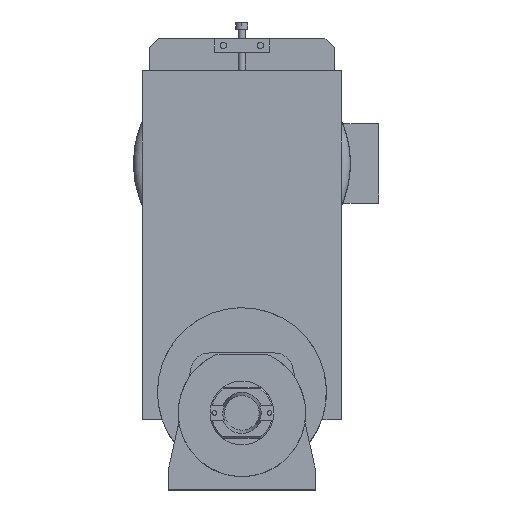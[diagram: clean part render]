
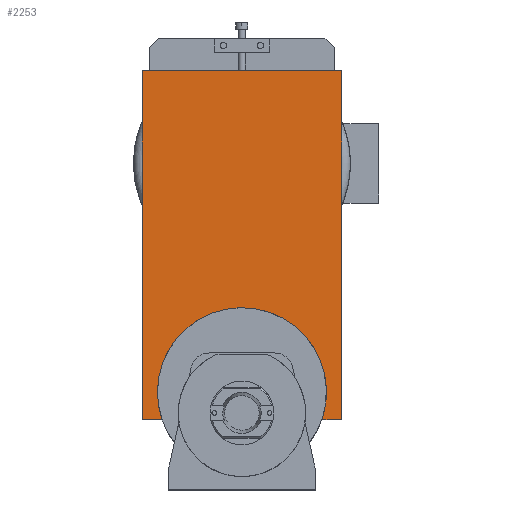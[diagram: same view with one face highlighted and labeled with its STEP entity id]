
A CAD part, top view. The second image highlights one B-rep face of the part: STEP entity #2253.
In plain terms, the highlighted planar face has unit normal (0, 0, 1).
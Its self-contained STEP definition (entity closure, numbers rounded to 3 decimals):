
#2122=CARTESIAN_POINT('',(108.0,371.308,-99.));
#2123=VERTEX_POINT('',#2122);
#2124=CARTESIAN_POINT('',(108.,-6.692,-99.));
#2125=VERTEX_POINT('',#2124);
#2126=CARTESIAN_POINT('',(108.0,371.308,-99.));
#2127=DIRECTION('',(0.0,-1.0,0.0));
#2128=VECTOR('',#2127,378.0);
#2129=LINE('',#2126,#2128);
#2130=EDGE_CURVE('',#2123,#2125,#2129,.T.);
#2153=CARTESIAN_POINT('',(86.548,-6.692,-99.));
#2154=VERTEX_POINT('',#2153);
#2155=CARTESIAN_POINT('',(108.,-6.692,-99.));
#2156=DIRECTION('',(-1.0,0.0,0.0));
#2157=VECTOR('',#2156,21.452);
#2158=LINE('',#2155,#2157);
#2159=EDGE_CURVE('',#2125,#2154,#2158,.T.);
#2161=CARTESIAN_POINT('',(-86.548,-6.692,-99.));
#2162=VERTEX_POINT('',#2161);
#2169=CARTESIAN_POINT('',(-108.,-6.692,-99.));
#2170=VERTEX_POINT('',#2169);
#2171=CARTESIAN_POINT('',(-86.548,-6.692,-99.));
#2172=DIRECTION('',(-1.0,0.0,0.0));
#2173=VECTOR('',#2172,21.452);
#2174=LINE('',#2171,#2173);
#2175=EDGE_CURVE('',#2162,#2170,#2174,.T.);
#2193=CARTESIAN_POINT('',(-108.0,371.308,-99.));
#2194=VERTEX_POINT('',#2193);
#2195=CARTESIAN_POINT('',(-108.,-6.692,-99.));
#2196=DIRECTION('',(0.0,1.0,0.0));
#2197=VECTOR('',#2196,378.0);
#2198=LINE('',#2195,#2197);
#2199=EDGE_CURVE('',#2170,#2194,#2198,.T.);
#2217=CARTESIAN_POINT('',(-108.0,371.308,-99.));
#2218=DIRECTION('',(1.0,0.0,0.0));
#2219=VECTOR('',#2218,216.0);
#2220=LINE('',#2217,#2219);
#2221=EDGE_CURVE('',#2194,#2123,#2220,.T.);
#2234=CARTESIAN_POINT('',(0.,182.308,-99.));
#2235=DIRECTION('',(0.0,0.0,1.0));
#2236=DIRECTION('',(1.0,0.0,0.0));
#2237=AXIS2_PLACEMENT_3D('',#2234,#2235,#2236);
#2238=PLANE('',#2237);
#2239=CARTESIAN_POINT('',(0.,23.,-99.));
#2240=DIRECTION('',(0.,0.,-1.0));
#2241=DIRECTION('',(0.791,0.611,0.));
#2242=AXIS2_PLACEMENT_3D('',#2239,#2240,#2241);
#2243=CIRCLE('',#2242,91.5);
#2244=EDGE_CURVE('',#2162,#2154,#2243,.T.);
#2245=ORIENTED_EDGE('',*,*,#2244,.T.);
#2246=ORIENTED_EDGE('',*,*,#2159,.F.);
#2247=ORIENTED_EDGE('',*,*,#2130,.F.);
#2248=ORIENTED_EDGE('',*,*,#2221,.F.);
#2249=ORIENTED_EDGE('',*,*,#2199,.F.);
#2250=ORIENTED_EDGE('',*,*,#2175,.F.);
#2251=EDGE_LOOP('',(#2245,#2246,#2247,#2248,#2249,#2250));
#2252=FACE_OUTER_BOUND('',#2251,.T.);
#2253=ADVANCED_FACE('',(#2252),#2238,.T.);
